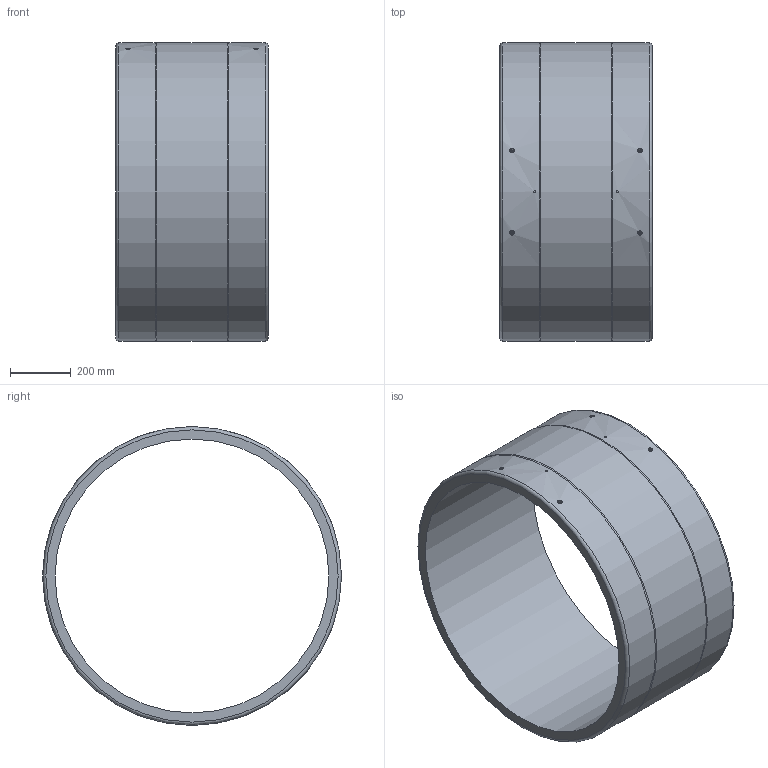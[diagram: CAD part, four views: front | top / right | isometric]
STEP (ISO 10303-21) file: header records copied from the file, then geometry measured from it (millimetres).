
FILE_DESCRIPTION(/* description */ ('Unknown'),/* implementation_level */ '2;1');
FILE_NAME(/* name */ 'MP900A',/* time_stamp */ '2021-06-23T15:56:02+02:00',/* author */ ('Unknown'),/* organization */ ('Unknown'),/* preprocessor_version */ 'ST-DEVELOPER v16.7',/* originating_system */ 'Solid Edge',/* authorisation */ 'Unknown');
FILE_SCHEMA (('AUTOMOTIVE_DESIGN {1 0 10303 214 3 1 1}'));
Length unit declared in the file: millimetre
Products named in the file (1): MP900A
Bounding box: 500 x 982 x 982 mm (x, y, z)
Volume: 59647520.3 mm3; surface area: 3167872.9 mm2
Topology: 1 solids, 1 shells, 34 faces, 67 edges, 43 vertices
Faces by surface type: cylinder 14, plane 12, bspline 4, cone 2, torus 2
Full cylindrical faces by diameter (mm): 4 x4, 6 x2, 13 x4, 900 x1, 980 x2, 982 x1
Entity records: 1104 total; most frequent: CARTESIAN_POINT 531, DIRECTION 110, ORIENTED_EDGE 68, EDGE_LOOP 68, FACE_BOUND 68, AXIS2_PLACEMENT_3D 55, EDGE_CURVE 34, VERTEX_POINT 34
